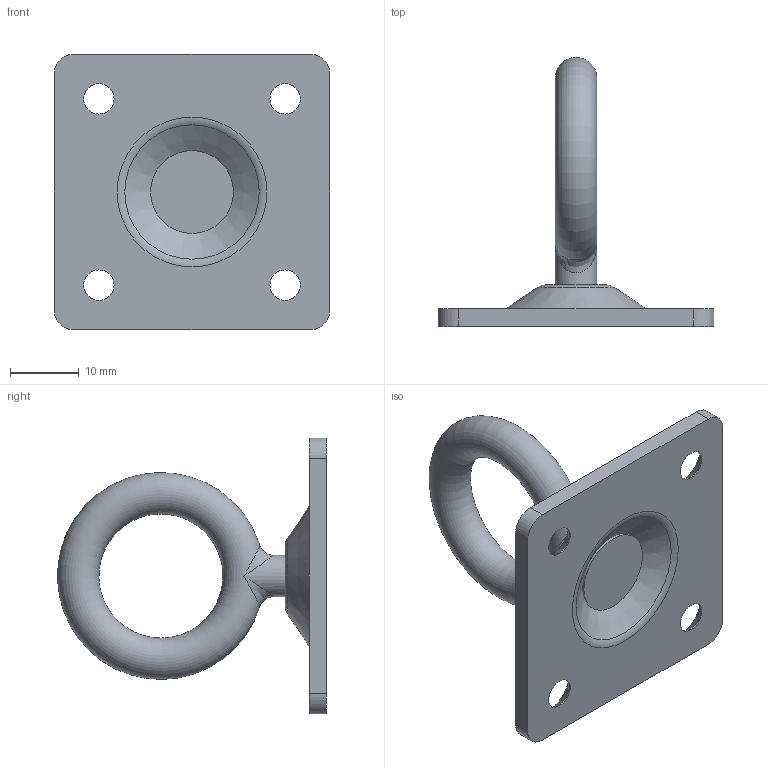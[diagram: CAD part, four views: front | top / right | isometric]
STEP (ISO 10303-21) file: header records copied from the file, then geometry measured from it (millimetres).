
FILE_DESCRIPTION(/* description */ (''),/* implementation_level */ '2;1');
FILE_NAME(/* name */ '\\SYNOLOGYNAS\web\db2\GLS-4040\도면\GLS-4040.stp',/* time_stamp */ '2024-12-30T16:23:14+09:00',/* author */ ('user'),/* organization */ (''),/* preprocessor_version */ 'ST-DEVELOPER v15.6',/* originating_system */ 'Autodesk Inventor 2015',/* authorisation */ '');
FILE_SCHEMA (('AUTOMOTIVE_DESIGN { 1 0 10303 214 3 1 1 }'));
Length unit declared in the file: millimetre
Products named in the file (3): 밑판; 고리; GLS-4040
Bounding box: 40 x 38.99 x 40 mm (x, y, z)
Volume: 5977.5 mm3; surface area: 5412 mm2
Topology: 2 solids, 2 shells, 35 faces, 83 edges, 51 vertices
Faces by surface type: cylinder 12, plane 11, cone 6, torus 4, bspline 2
Full cylindrical faces by diameter (mm): 3 x2, 4.4 x4, 6 x1, 12 x1
Entity records: 1144 total; most frequent: CARTESIAN_POINT 370, DIRECTION 160, ORIENTED_EDGE 108, AXIS2_PLACEMENT_3D 72, EDGE_LOOP 66, EDGE_CURVE 54, VERTEX_POINT 44, ADVANCED_FACE 35
